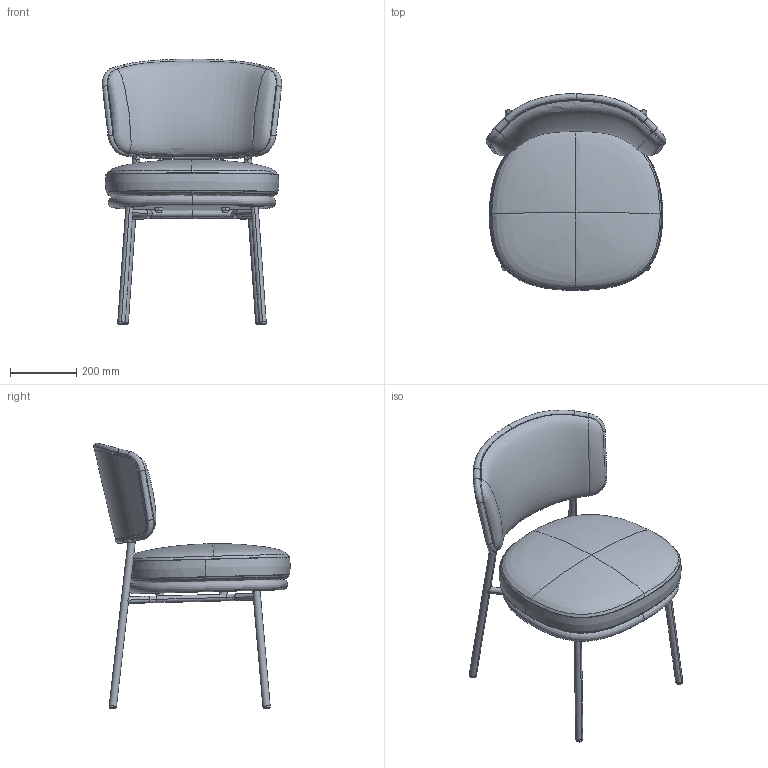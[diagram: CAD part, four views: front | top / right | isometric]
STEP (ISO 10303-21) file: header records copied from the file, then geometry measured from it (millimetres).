
FILE_DESCRIPTION(/* description */ (''),/* implementation_level */ '2;1');
FILE_NAME(/* name */ 'Aristo_Dining Chair_3D',/* time_stamp */ '2025-02-18T16:05:56+01:00',/* author */ (''),/* organization */ (''),/* preprocessor_version */ 'ST-DEVELOPER v16.5',/* originating_system */ 'Rhino 7.38',/* authorisation */ '');
FILE_SCHEMA (('CONFIG_CONTROL_DESIGN'));
Length unit declared in the file: millimetre
Products named in the file (1): Document
Bounding box: 540.9 x 591.82 x 800.12 mm (x, y, z)
Volume: 8916234.7 mm3; surface area: 1629748.6 mm2
Topology: 23 solids, 31 shells, 314 faces, 710 edges, 442 vertices
Faces by surface type: bspline 184, cylinder 75, plane 55
Entity records: 80635 total; most frequent: CARTESIAN_POINT 76427, ORIENTED_EDGE 1315, EDGE_CURVE 691, VERTEX_POINT 426, EDGE_LOOP 325, ADVANCED_FACE 314, FACE_OUTER_BOUND 314, B_SPLINE_CURVE_WITH_KNOTS 230
